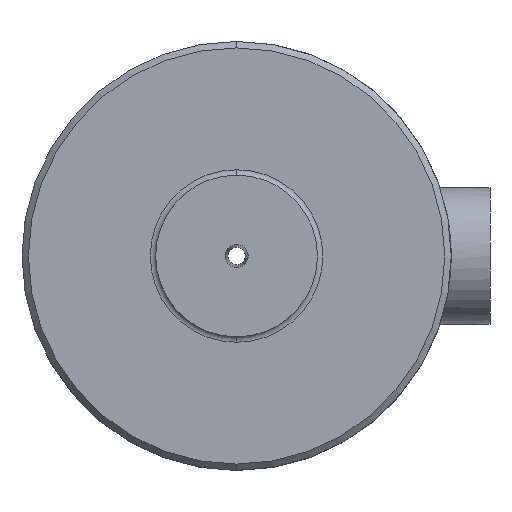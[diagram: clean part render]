
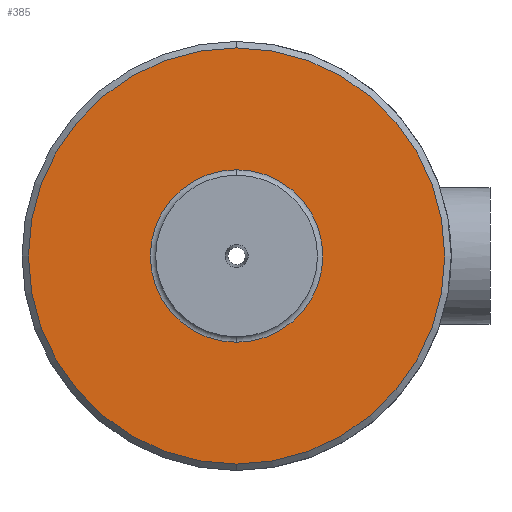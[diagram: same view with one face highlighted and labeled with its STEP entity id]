
A CAD part, front view. The second image highlights one B-rep face of the part: STEP entity #385.
In plain terms, the highlighted planar face has unit normal (0, -1, 0).
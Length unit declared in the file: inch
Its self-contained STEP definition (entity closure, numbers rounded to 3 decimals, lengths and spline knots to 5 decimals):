
#127 = EDGE_CURVE ( 'NONE', #128, #129, #689, .T. ) ;
#128 = VERTEX_POINT ( 'NONE', #681 ) ;
#129 = VERTEX_POINT ( 'NONE', #680 ) ;
#134 = EDGE_CURVE ( 'NONE', #135, #136, #673, .T. ) ;
#135 = VERTEX_POINT ( 'NONE', #668 ) ;
#136 = VERTEX_POINT ( 'NONE', #667 ) ;
#385 = ADVANCED_FACE ( 'NONE', ( #1225, #1221 ), #1249, .T. ) ;
#386 = EDGE_LOOP ( 'NONE', ( #387, #389 ) ) ;
#387 = ORIENTED_EDGE ( 'NONE', *, *, #397, .T. ) ;
#388 = EDGE_LOOP ( 'NONE', ( #390, #391 ) ) ;
#389 = ORIENTED_EDGE ( 'NONE', *, *, #127, .T. ) ;
#390 = ORIENTED_EDGE ( 'NONE', *, *, #134, .F. ) ;
#391 = ORIENTED_EDGE ( 'NONE', *, *, #392, .F. ) ;
#392 = EDGE_CURVE ( 'NONE', #136, #135, #1222, .T. ) ;
#397 = EDGE_CURVE ( 'NONE', #129, #128, #1245, .T. ) ;
#667 = CARTESIAN_POINT ( 'NONE',  ( 0., -1., -0.965 ) ) ;
#668 = CARTESIAN_POINT ( 'NONE',  ( 0., -1., 0.965 ) ) ;
#669 = DIRECTION ( 'NONE',  ( 0., 0., 1. ) ) ;
#670 = DIRECTION ( 'NONE',  ( 0., 1., 0. ) ) ;
#671 = CARTESIAN_POINT ( 'NONE',  ( 0., -1., 0. ) ) ;
#672 = AXIS2_PLACEMENT_3D ( 'NONE', #671, #670, #669 ) ;
#673 = CIRCLE ( 'NONE', #672, 0.965 ) ;
#680 = CARTESIAN_POINT ( 'NONE',  ( 0., -1., 0.4 ) ) ;
#681 = CARTESIAN_POINT ( 'NONE',  ( 0., -1., -0.4 ) ) ;
#682 = DIRECTION ( 'NONE',  ( 0., 0., 1. ) ) ;
#683 = DIRECTION ( 'NONE',  ( 0., 1., 0. ) ) ;
#684 = CARTESIAN_POINT ( 'NONE',  ( 0., -1., 0. ) ) ;
#685 = AXIS2_PLACEMENT_3D ( 'NONE', #684, #683, #682 ) ;
#689 = CIRCLE ( 'NONE', #685, 0.4 ) ;
#1213 = DIRECTION ( 'NONE',  ( 0., 1., 0. ) ) ;
#1214 = CARTESIAN_POINT ( 'NONE',  ( 0., -1., 0. ) ) ;
#1215 = AXIS2_PLACEMENT_3D ( 'NONE', #1214, #1213, #1247 ) ;
#1221 = FACE_OUTER_BOUND ( 'NONE', #388, .T. ) ;
#1222 = CIRCLE ( 'NONE', #1215, 0.965 ) ;
#1223 = CARTESIAN_POINT ( 'NONE',  ( 0.965, -1., 0. ) ) ;
#1224 = AXIS2_PLACEMENT_3D ( 'NONE', #1223, #1238, #1237 ) ;
#1225 = FACE_BOUND ( 'NONE', #386, .T. ) ;
#1237 = DIRECTION ( 'NONE',  ( 0., 0., -1. ) ) ;
#1238 = DIRECTION ( 'NONE',  ( 0., -1., 0. ) ) ;
#1244 = AXIS2_PLACEMENT_3D ( 'NONE', #1254, #1253, #1252 ) ;
#1245 = CIRCLE ( 'NONE', #1244, 0.4 ) ;
#1247 = DIRECTION ( 'NONE',  ( 0., 0., 1. ) ) ;
#1249 = PLANE ( 'NONE',  #1224 ) ;
#1252 = DIRECTION ( 'NONE',  ( 0., 0., 1. ) ) ;
#1253 = DIRECTION ( 'NONE',  ( 0., 1., 0. ) ) ;
#1254 = CARTESIAN_POINT ( 'NONE',  ( 0., -1., 0. ) ) ;
